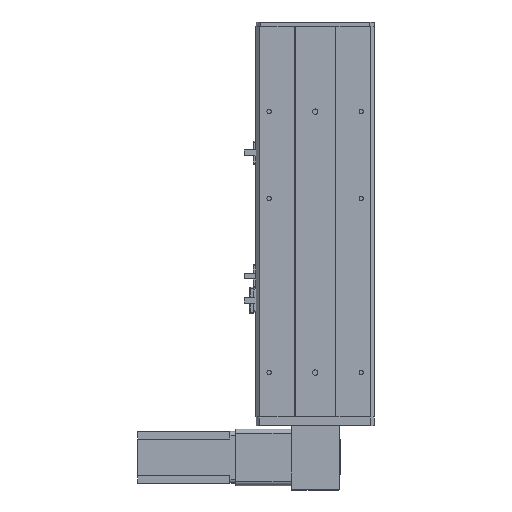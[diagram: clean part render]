
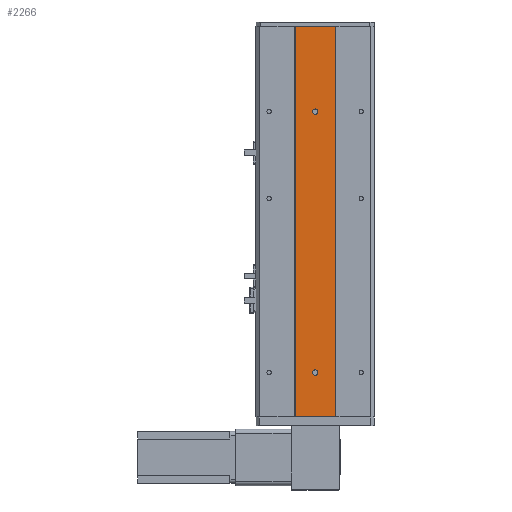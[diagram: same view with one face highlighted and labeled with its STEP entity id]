
A CAD part, front view. The second image highlights one B-rep face of the part: STEP entity #2266.
In plain terms, the highlighted planar face has unit normal (0, -1, 0).
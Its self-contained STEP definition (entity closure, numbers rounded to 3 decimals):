
#55 = CIRCLE ( 'NONE', #24701, 3. ) ;
#214 = DIRECTION ( 'NONE',  ( -1., 0., 0. ) ) ;
#468 = DIRECTION ( 'NONE',  ( 0., 1., 0. ) ) ;
#803 = DIRECTION ( 'NONE',  ( -1., 0., 0. ) ) ;
#1353 = LINE ( 'NONE', #12474, #7130 ) ;
#1662 = DIRECTION ( 'NONE',  ( -1., 0., 0. ) ) ;
#1715 = CARTESIAN_POINT ( 'NONE',  ( 68., -8.6, -395. ) ) ;
#2109 = ORIENTED_EDGE ( 'NONE', *, *, #6446, .T. ) ;
#2266 = ADVANCED_FACE ( 'NONE', ( #11961, #22310, #18380 ), #8200, .F. ) ;
#2418 = CARTESIAN_POINT ( 'NONE',  ( 91., -8.6, -449. ) ) ;
#2796 = VECTOR ( 'NONE', #4385, 1000. ) ;
#4350 = AXIS2_PLACEMENT_3D ( 'NONE', #23568, #11891, #214 ) ;
#4385 = DIRECTION ( 'NONE',  ( 0., 0., 1. ) ) ;
#4911 = VECTOR ( 'NONE', #11039, 1000. ) ;
#5329 = EDGE_LOOP ( 'NONE', ( #23152, #7117, #18339, #2109 ) ) ;
#5650 = CARTESIAN_POINT ( 'NONE',  ( 68., -8.6, -98. ) ) ;
#5753 = CARTESIAN_POINT ( 'NONE',  ( 45., -8.6, 0. ) ) ;
#6284 = EDGE_CURVE ( 'NONE', #8409, #13600, #22006, .T. ) ;
#6438 = DIRECTION ( 'NONE',  ( 0., 1., 0. ) ) ;
#6446 = EDGE_CURVE ( 'NONE', #22283, #8409, #22926, .T. ) ;
#6567 = VERTEX_POINT ( 'NONE', #18378 ) ;
#6659 = CARTESIAN_POINT ( 'NONE',  ( 91., -8.6, -449. ) ) ;
#6815 = EDGE_CURVE ( 'NONE', #6567, #9791, #55, .T. ) ;
#7117 = ORIENTED_EDGE ( 'NONE', *, *, #15256, .F. ) ;
#7130 = VECTOR ( 'NONE', #803, 1000. ) ;
#7617 = DIRECTION ( 'NONE',  ( -1., 0., 0. ) ) ;
#7649 = VERTEX_POINT ( 'NONE', #1715 ) ;
#7944 = AXIS2_PLACEMENT_3D ( 'NONE', #18138, #6438, #20066 ) ;
#8200 = PLANE ( 'NONE',  #21305 ) ;
#8409 = VERTEX_POINT ( 'NONE', #12319 ) ;
#9504 = LINE ( 'NONE', #24686, #4911 ) ;
#9791 = VERTEX_POINT ( 'NONE', #24167 ) ;
#9819 = ORIENTED_EDGE ( 'NONE', *, *, #6815, .T. ) ;
#10160 = CARTESIAN_POINT ( 'NONE',  ( 45., -8.6, -449. ) ) ;
#10318 = CIRCLE ( 'NONE', #7944, 3. ) ;
#11039 = DIRECTION ( 'NONE',  ( 0., 0., 1. ) ) ;
#11660 = VECTOR ( 'NONE', #17530, 1000. ) ;
#11771 = ORIENTED_EDGE ( 'NONE', *, *, #20362, .T. ) ;
#11891 = DIRECTION ( 'NONE',  ( 0., 1., 0. ) ) ;
#11918 = VERTEX_POINT ( 'NONE', #22390 ) ;
#11961 = FACE_BOUND ( 'NONE', #12199, .T. ) ;
#12199 = EDGE_LOOP ( 'NONE', ( #11771, #19294 ) ) ;
#12319 = CARTESIAN_POINT ( 'NONE',  ( 91., -8.6, 0. ) ) ;
#12474 = CARTESIAN_POINT ( 'NONE',  ( 45., -8.6, -449. ) ) ;
#13333 = DIRECTION ( 'NONE',  ( 0., 1., 0. ) ) ;
#13600 = VERTEX_POINT ( 'NONE', #15746 ) ;
#13836 = EDGE_LOOP ( 'NONE', ( #24690, #9819 ) ) ;
#14041 = CIRCLE ( 'NONE', #20870, 3. ) ;
#14101 = DIRECTION ( 'NONE',  ( -1., 0., 0. ) ) ;
#15256 = EDGE_CURVE ( 'NONE', #11918, #13600, #9504, .T. ) ;
#15499 = CIRCLE ( 'NONE', #4350, 3. ) ;
#15746 = CARTESIAN_POINT ( 'NONE',  ( 45., -8.6, 0. ) ) ;
#17530 = DIRECTION ( 'NONE',  ( -1., 0., 0. ) ) ;
#17574 = EDGE_CURVE ( 'NONE', #9791, #6567, #10318, .T. ) ;
#18058 = EDGE_CURVE ( 'NONE', #7649, #19662, #15499, .T. ) ;
#18138 = CARTESIAN_POINT ( 'NONE',  ( 68., -8.6, -98. ) ) ;
#18339 = ORIENTED_EDGE ( 'NONE', *, *, #24053, .F. ) ;
#18378 = CARTESIAN_POINT ( 'NONE',  ( 68., -8.6, -95. ) ) ;
#18380 = FACE_OUTER_BOUND ( 'NONE', #5329, .T. ) ;
#19280 = DIRECTION ( 'NONE',  ( 0., 1., 0. ) ) ;
#19294 = ORIENTED_EDGE ( 'NONE', *, *, #18058, .T. ) ;
#19662 = VERTEX_POINT ( 'NONE', #24608 ) ;
#20066 = DIRECTION ( 'NONE',  ( -1., 0., 0. ) ) ;
#20362 = EDGE_CURVE ( 'NONE', #19662, #7649, #14041, .T. ) ;
#20870 = AXIS2_PLACEMENT_3D ( 'NONE', #25006, #13333, #1662 ) ;
#21305 = AXIS2_PLACEMENT_3D ( 'NONE', #10160, #468, #14101 ) ;
#22006 = LINE ( 'NONE', #5753, #11660 ) ;
#22283 = VERTEX_POINT ( 'NONE', #6659 ) ;
#22310 = FACE_BOUND ( 'NONE', #13836, .T. ) ;
#22390 = CARTESIAN_POINT ( 'NONE',  ( 45., -8.6, -449. ) ) ;
#22926 = LINE ( 'NONE', #2418, #2796 ) ;
#23152 = ORIENTED_EDGE ( 'NONE', *, *, #6284, .T. ) ;
#23568 = CARTESIAN_POINT ( 'NONE',  ( 68., -8.6, -398. ) ) ;
#24053 = EDGE_CURVE ( 'NONE', #22283, #11918, #1353, .T. ) ;
#24167 = CARTESIAN_POINT ( 'NONE',  ( 68., -8.6, -101. ) ) ;
#24608 = CARTESIAN_POINT ( 'NONE',  ( 68., -8.6, -401. ) ) ;
#24686 = CARTESIAN_POINT ( 'NONE',  ( 45., -8.6, -449. ) ) ;
#24690 = ORIENTED_EDGE ( 'NONE', *, *, #17574, .T. ) ;
#24701 = AXIS2_PLACEMENT_3D ( 'NONE', #5650, #19280, #7617 ) ;
#25006 = CARTESIAN_POINT ( 'NONE',  ( 68., -8.6, -398. ) ) ;
